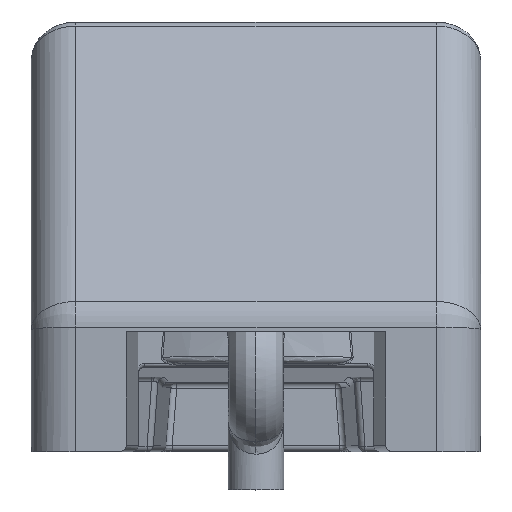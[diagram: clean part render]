
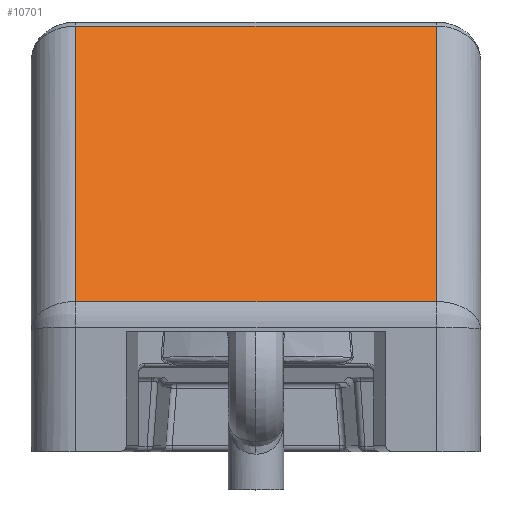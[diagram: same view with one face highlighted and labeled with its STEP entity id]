
A CAD part, front view. The second image highlights one B-rep face of the part: STEP entity #10701.
In plain terms, the highlighted planar face has unit normal (0, -0.738, 0.675).
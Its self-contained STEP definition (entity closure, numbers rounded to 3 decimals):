
#147 = LINE ( 'NONE', #18959, #9082 ) ;
#581 = CARTESIAN_POINT ( 'NONE',  ( 320., -211.611, 266.611 ) ) ;
#690 = DIRECTION ( 'NONE',  ( 0., 0.675, 0.738 ) ) ;
#1547 = PLANE ( 'NONE',  #9144 ) ;
#1655 = ORIENTED_EDGE ( 'NONE', *, *, #8034, .T. ) ;
#2041 = VECTOR ( 'NONE', #8510, 1000. ) ;
#2273 = VERTEX_POINT ( 'NONE', #15753 ) ;
#3881 = CARTESIAN_POINT ( 'NONE',  ( 35., -4.733, 492.733 ) ) ;
#4028 = EDGE_CURVE ( 'NONE', #11191, #4985, #17398, .T. ) ;
#4552 = DIRECTION ( 'NONE',  ( 0., 0.738, -0.675 ) ) ;
#4985 = VERTEX_POINT ( 'NONE', #17918 ) ;
#5628 = ORIENTED_EDGE ( 'NONE', *, *, #4028, .T. ) ;
#5711 = CARTESIAN_POINT ( 'NONE',  ( 320., -203.745, 275.209 ) ) ;
#5814 = ORIENTED_EDGE ( 'NONE', *, *, #16464, .T. ) ;
#6221 = DIRECTION ( 'NONE',  ( 0., -0.675, -0.738 ) ) ;
#7056 = CARTESIAN_POINT ( 'NONE',  ( 0., -203.745, 275.209 ) ) ;
#8007 = DIRECTION ( 'NONE',  ( -1., 0., 0. ) ) ;
#8034 = EDGE_CURVE ( 'NONE', #2273, #11191, #16970, .T. ) ;
#8430 = VECTOR ( 'NONE', #690, 1000. ) ;
#8510 = DIRECTION ( 'NONE',  ( 1., 0., 0. ) ) ;
#8843 = DIRECTION ( 'NONE',  ( 0., -0.675, -0.738 ) ) ;
#9082 = VECTOR ( 'NONE', #8007, 1000. ) ;
#9144 = AXIS2_PLACEMENT_3D ( 'NONE', #18251, #4552, #6221 ) ;
#9175 = LINE ( 'NONE', #9284, #20750 ) ;
#9284 = CARTESIAN_POINT ( 'NONE',  ( 35., -211.611, 266.611 ) ) ;
#9839 = ORIENTED_EDGE ( 'NONE', *, *, #14309, .T. ) ;
#10701 = ADVANCED_FACE ( 'NONE', ( #11777 ), #1547, .F. ) ;
#11191 = VERTEX_POINT ( 'NONE', #5711 ) ;
#11777 = FACE_OUTER_BOUND ( 'NONE', #11948, .T. ) ;
#11948 = EDGE_LOOP ( 'NONE', ( #9839, #1655, #5628, #5814 ) ) ;
#14309 = EDGE_CURVE ( 'NONE', #16700, #2273, #9175, .T. ) ;
#15753 = CARTESIAN_POINT ( 'NONE',  ( 35., -203.745, 275.209 ) ) ;
#16464 = EDGE_CURVE ( 'NONE', #4985, #16700, #147, .T. ) ;
#16700 = VERTEX_POINT ( 'NONE', #3881 ) ;
#16970 = LINE ( 'NONE', #7056, #2041 ) ;
#17398 = LINE ( 'NONE', #581, #8430 ) ;
#17918 = CARTESIAN_POINT ( 'NONE',  ( 320., -4.733, 492.733 ) ) ;
#18251 = CARTESIAN_POINT ( 'NONE',  ( 0., -211.611, 266.611 ) ) ;
#18959 = CARTESIAN_POINT ( 'NONE',  ( 0., -4.733, 492.733 ) ) ;
#20750 = VECTOR ( 'NONE', #8843, 1000. ) ;
